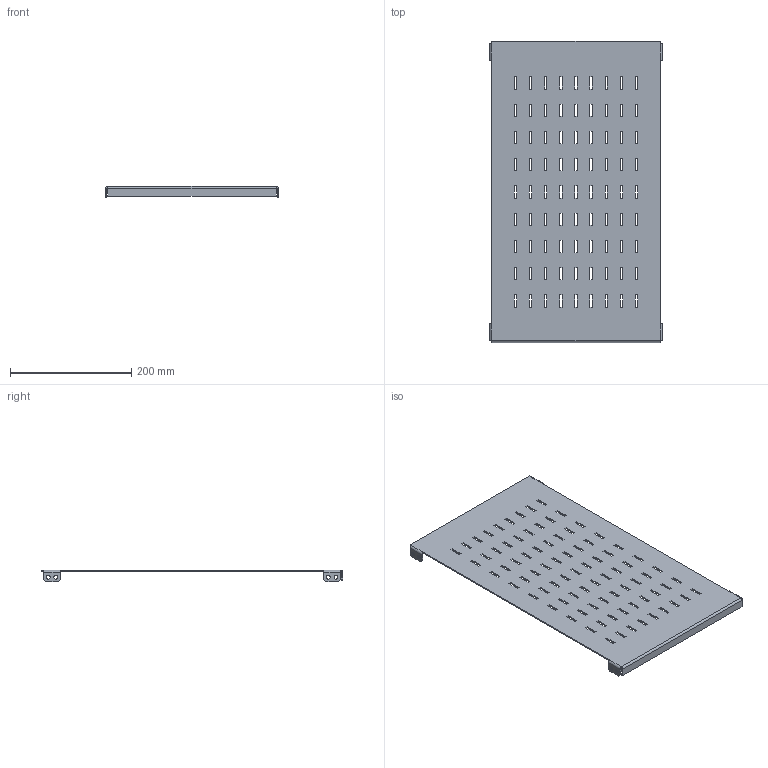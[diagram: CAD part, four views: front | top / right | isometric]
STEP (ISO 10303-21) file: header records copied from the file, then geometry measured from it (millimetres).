
FILE_DESCRIPTION(('STEP AP203'), '1');
FILE_NAME('Ïàíåëü áîêîâàÿ âîçäóøíîãî âûêëþ÷àòåëÿ Â600õÃ400 ìì OptiBox M (2 øò) 419091 ÊÝÀÇ', '', ('UNSPECIFIED'), ('UNSPECIFIED'), 'C3D Converter', 'C3D Toolkit', '');
FILE_SCHEMA(('CONFIG_CONTROL_DESIGN'));
Length unit declared in the file: millimetre
Bounding box: 285 x 497 x 19 mm (x, y, z)
Volume: 274674.4 mm3; surface area: 286198.5 mm2
Topology: 1 solids, 1 shells, 392 faces, 1130 edges, 740 vertices
Faces by surface type: plane 374, cylinder 18
Full cylindrical faces by diameter (mm): 6.3 x8
Entity records: 12926 total; most frequent: CARTESIAN_POINT 2255, ORIENTED_EDGE 2244, DIRECTION 1944, EDGE_CURVE 1122, LINE 1086, VECTOR 1086, VERTEX_POINT 740, EDGE_LOOP 578
